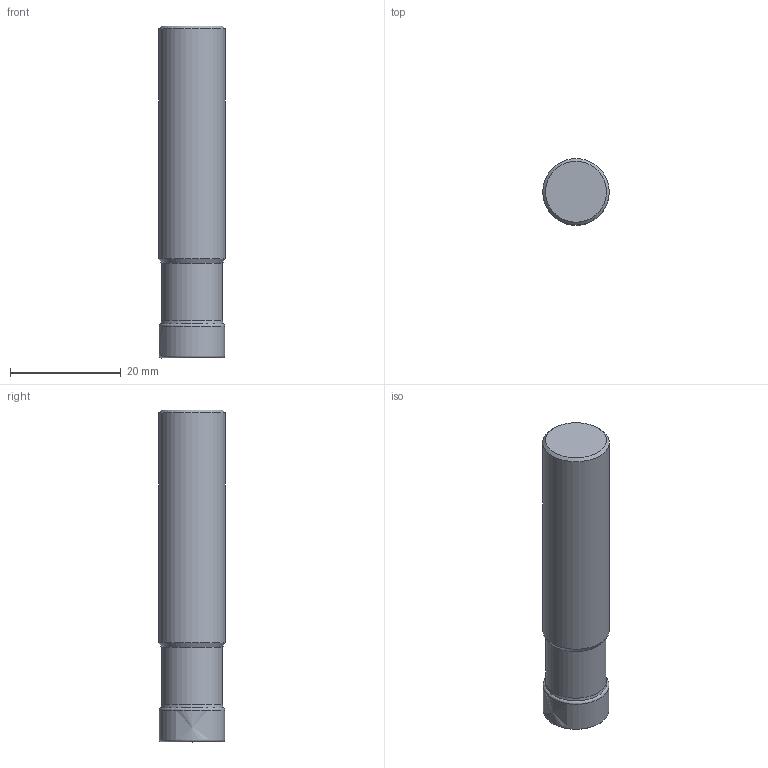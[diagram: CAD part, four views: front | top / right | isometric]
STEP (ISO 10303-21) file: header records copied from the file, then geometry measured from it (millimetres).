
FILE_DESCRIPTION(/* description */ (''),/* implementation_level */ '2;1');
FILE_NAME(/* name */ 'R217.69-1212.0-06-3AN_Basic.stp',/* time_stamp */ '2023-06-06T15:12:15+06:00',/* author */ (''),/* organization */ (''),/* preprocessor_version */ 'ST-DEVELOPER v16.7',/* originating_system */ 'SIEMENS PLM Software NX 12.0',/* authorisation */ '');
FILE_SCHEMA (('AUTOMOTIVE_DESIGN { 1 0 10303 214 3 1 1 1 }'));
Length unit declared in the file: millimetre
Products named in the file (4): CUT; NOCUT; ASSEMBLY_CONSTRUCTION; R217.69-1212.0-06-3AN_Basic
Assembly tree (3 placements, depth 2):
  R217.69-1212.0-06-3AN_Basic
    ASSEMBLY_CONSTRUCTION
    NOCUT
    CUT
Bounding box: 12 x 12 x 59.97 mm (x, y, z)
Volume: 7057.8 mm3; surface area: 2890.8 mm2
Topology: 2 solids, 2 shells, 17 faces, 32 edges, 26 vertices
Faces by surface type: revolution 6, cone 5, cylinder 3, plane 2, torus 1
Full cylindrical faces by diameter (mm): 11 x1, 11.425 x1, 12 x1
Entity records: 650 total; most frequent: CARTESIAN_POINT 152, DIRECTION 84, AXIS2_PLACEMENT_3D 39, EDGE_LOOP 32, ORIENTED_EDGE 32, FACE_BOUND 30, STYLED_ITEM 20, PRESENTATION_STYLE_ASSIGNMENT 20
